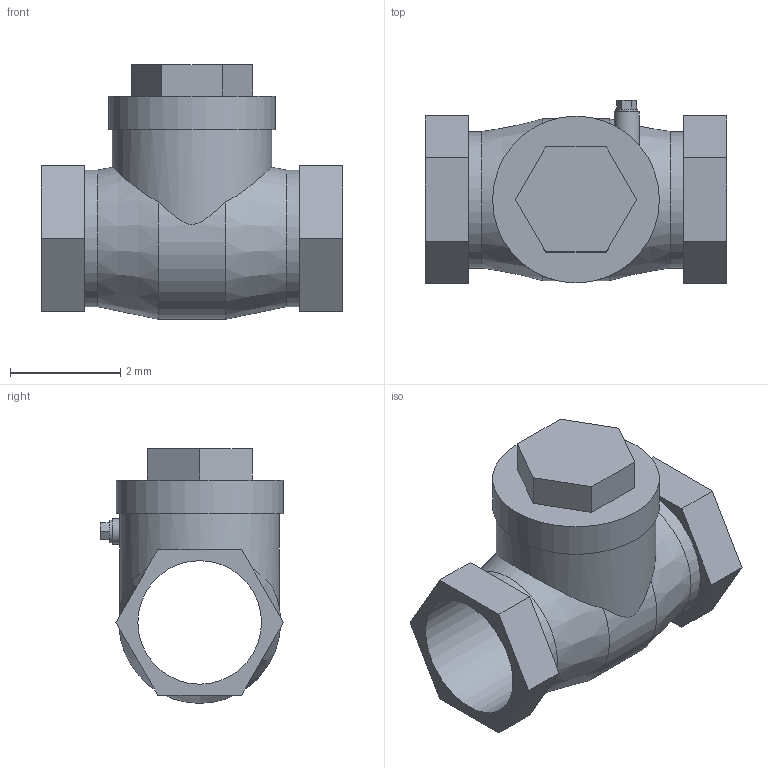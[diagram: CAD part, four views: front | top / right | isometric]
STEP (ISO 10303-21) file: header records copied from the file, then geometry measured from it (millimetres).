
FILE_DESCRIPTION(('Open CASCADE Model'),'2;1');
FILE_NAME('Open CASCADE Shape Model','2022-01-18T13:48:11',('Author'),( 'Open CASCADE'),'Open CASCADE STEP processor 7.3','Open CASCADE 7.3' ,'Unknown');
FILE_SCHEMA(('AUTOMOTIVE_DESIGN { 1 0 10303 214 1 1 1 1 }'));
Length unit declared in the file: millimetre
Products named in the file (1): Open CASCADE STEP translator 7.3 1
Bounding box: 5.47 x 3.32 x 4.62 mm (x, y, z)
Volume: 22.3 mm3; surface area: 113.3 mm2
Topology: 1 solids, 1 shells, 44 faces, 106 edges, 71 vertices
Faces by surface type: plane 34, cylinder 8, cone 2
Full cylindrical faces by diameter (mm): 0.407 x1, 0.46 x1, 2.24 x1, 2.473 x2, 2.89 x1, 3.023 x1
Entity records: 3927 total; most frequent: CARTESIAN_POINT 1772, DIRECTION 388, LINE 257, VECTOR 257, ORIENTED_EDGE 212, PCURVE 212, DEFINITIONAL_REPRESENTATION 212, EDGE_CURVE 106
